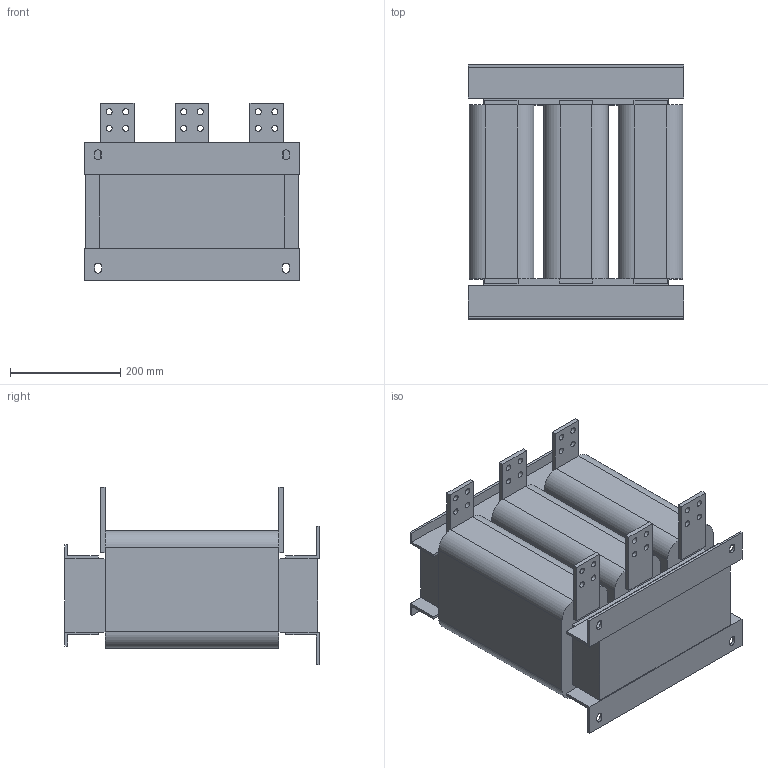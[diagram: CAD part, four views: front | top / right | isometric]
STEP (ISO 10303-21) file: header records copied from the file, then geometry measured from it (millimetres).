
FILE_DESCRIPTION(/* description */ (''),/* implementation_level */ '2;1');
FILE_NAME(/* name */ 'E:\Работа\Веда МК (Данфосс)\!Текущие задачи\2024.08.30 3D модели\Дроссели\ACO 1-проц 660 В\STP\ACO-C-1080-T6.stp',/* time_stamp */ '2024-11-02T15:40:16+04:00',/* author */ ('Александр (огранич)'),/* organization */ (''),/* preprocessor_version */ 'ST-DEVELOPER v18.1',/* originating_system */ 'Autodesk Inventor 2021',/* authorisation */ '');
FILE_SCHEMA (('AUTOMOTIVE_DESIGN { 1 0 10303 214 3 1 1 }'));
Length unit declared in the file: millimetre
Products named in the file (1): ACO-0015-T4-4
Bounding box: 390 x 460 x 320.5 mm (x, y, z)
Volume: 30263923.5 mm3; surface area: 1191285.8 mm2
Topology: 3 solids, 3 shells, 154 faces, 436 edges, 284 vertices
Faces by surface type: plane 110, cylinder 44
Full cylindrical faces by diameter (mm): 11 x24
Entity records: 5139 total; most frequent: CARTESIAN_POINT 875, ORIENTED_EDGE 872, DIRECTION 866, EDGE_CURVE 436, LINE 316, VECTOR 316, VERTEX_POINT 284, AXIS2_PLACEMENT_3D 275
